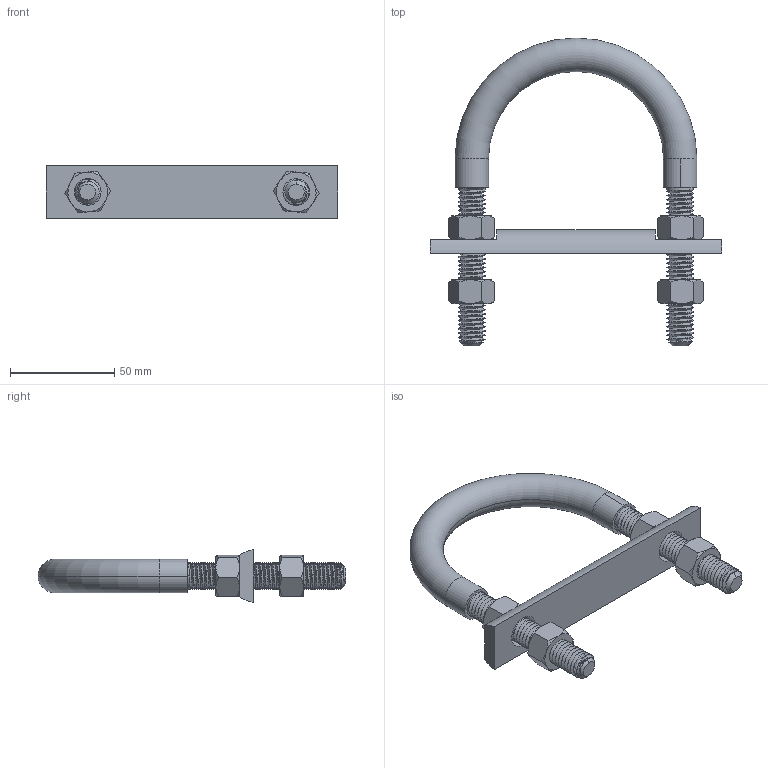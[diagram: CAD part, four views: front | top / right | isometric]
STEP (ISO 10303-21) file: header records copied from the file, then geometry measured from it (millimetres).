
FILE_DESCRIPTION (( 'STEP AP214' ), '1' );
FILE_NAME ('NUB1465.STEP', '2022-04-04T16:55:31', ( '' ), ( '' ), 'SwSTEP 2.0', 'SolidWorks 2021', '' );
FILE_SCHEMA (( 'AUTOMOTIVE_DESIGN' ));
Length unit declared in the file: inch
Products named in the file (4): NUB1465; FAS0046; UBT0992_UTB11-2.5-0.5-13 XL [NUB1465]; ROD0639_IR11-2.5 XL [ROD0639]
Assembly tree (6 placements, depth 2):
  NUB1465
    FAS0046  x4
    UBT0992_UTB11-2.5-0.5-13 XL [NUB1465]
    ROD0639_IR11-2.5 XL [ROD0639]
Bounding box: 139.7 x 147.73 x 25.27 mm (x, y, z)
Volume: 84595.7 mm3; surface area: 49582.7 mm2
Topology: 7 solids, 7 shells, 308 faces, 790 edges, 496 vertices
Faces by surface type: cylinder 175, cone 78, plane 45, torus 6, bspline 4
Entity records: 17013 total; most frequent: CARTESIAN_POINT 11971, ORIENTED_EDGE 1196, DIRECTION 796, EDGE_CURVE 598, VERTEX_POINT 388, AXIS2_PLACEMENT_3D 299, EDGE_LOOP 226, FACE_OUTER_BOUND 218
